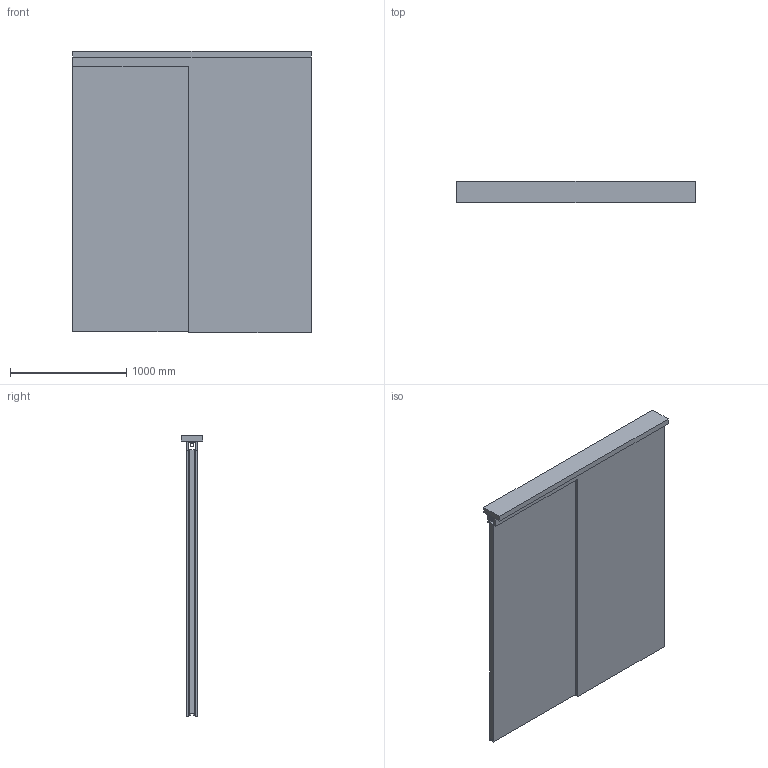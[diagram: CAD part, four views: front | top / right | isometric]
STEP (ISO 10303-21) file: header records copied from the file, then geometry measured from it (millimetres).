
FILE_DESCRIPTION(('STEP AP242'),'1');
FILE_NAME('OPO_65.080.26_volu_3d.stp','2026-01-14T05:28:28',(' '),(' '),'Spatial InterOp 3D',' ',' ');
FILE_SCHEMA(('AP242_MANAGED_MODEL_BASED_3D_ENGINEERING_MIM_LF {1 0 10303 442 1 1 4}'));
Length unit declared in the file: millimetre
Products named in the file (1): 1
Bounding box: 2050 x 188 x 2418 mm (x, y, z)
Volume: 212650067.8 mm3; surface area: 17707656.1 mm2
Topology: 7 solids, 7 shells, 304 faces, 808 edges, 534 vertices
Faces by surface type: plane 244, cylinder 60
Entity records: 11828 total; most frequent: CARTESIAN_POINT 1653, ORIENTED_EDGE 1616, DIRECTION 1550, EDGE_CURVE 808, LINE 688, VECTOR 688, VERTEX_POINT 534, AXIS2_PLACEMENT_3D 431
